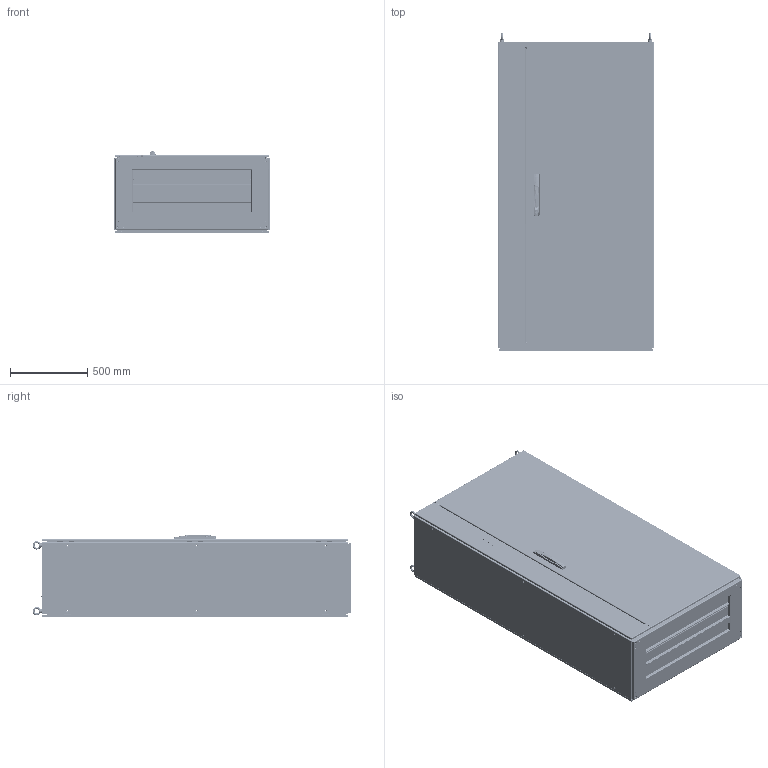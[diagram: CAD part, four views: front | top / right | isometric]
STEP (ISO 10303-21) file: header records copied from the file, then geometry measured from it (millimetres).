
FILE_DESCRIPTION (( 'STEP AP203' ), '1' );
FILE_NAME ('p2kdl20105.STEP', '2016-10-31T19:17:04', ( '' ), ( '' ), 'SwSTEP 2.0', 'SolidWorks 2014', '' );
FILE_SCHEMA (( 'CONFIG_CONTROL_DESIGN' ));
Length unit declared in the file: millimetre
Products named in the file (118): 51231001; 89124407; 89137360; 89137142_89137142; 89137403_Formed; 89129203_BBD; 46139003_46139003; 87931368_SLEEVE; 89126234; 64205001; 99411283; 89126106; 60127208; 87932260; 89126102; 11258014; 89130021_Installed RH Bot side - pin in; 11458037; 89143355_87781204; 89124458_After Weld; 89127265_2000x600; 51155001_51155001; 60100041_60100041; 50612100; 87541995; 89135159; 89127947; 60127207; 87960061; 89126523; 46139001_46139001; 89124209_Installed LH Bot side - pin in; 11458036; 89137406_FIP GASKET; 87920638_87920638; 89127235; 11258741_11258741; 89127335; 89128500_89001805; 87541994_Installed Height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
Assembly tree (224 placements, depth 5):
  p2kdl20105
    89127947
      60127013  x8
      89126102  x4
      89126523  x4
      89127979  x4
      89126524  x4
      89128008  x4
      89126106  x4
    89124255_89124255  x6
      89124256_89124256
      89124408_89124408
      89133232_Cometic Threads
    89127296
      89127335
        89127382_2000x600
        60100041_60100041  x2
          87931527_87931527
          87931368_SLEEVE
      89127411_87934847
    89126810
    89120016  x4
    89122652  x4
    89137405_BBD
      89137402
        89137403_Formed
        60100041_60100041  x2
          87931527_87931527
          87931368_SLEEVE
        89124458_After Weld  x3
        87920638_87920638  x16
        87931362_87931362  x8
      89137360
        89091664_875472289  x4
        89135168_89133277  x2
        89124180_89124180  x2
      89134078_60127430
        11458037
        11458036
        51140001
        11358764
        11258013
        11258012
        11358763
        51231001
        11258014
        46139001_46139001  x2
        51145001_Extended
        11358765
        46120001_Compressed
        51223001
        51138001_Compressed
        60127093
        60127208
        60127207
      87417965_Latch Open
        87540678
        64210001
        11258598_11258598
        11258701_11258701
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Bounding box: 1007.8 x 2061.13 x 533.07 mm (x, y, z)
Volume: 25118081.6 mm3; surface area: 25177687.3 mm2
Topology: 241 solids, 251 shells, 25431 faces, 68613 edges, 43880 vertices
Faces by surface type: plane 13576, cylinder 8641, torus 1235, bspline 1121, cone 753, sphere 105
Entity records: 361765 total; most frequent: CARTESIAN_POINT 99731, ORIENTED_EDGE 52100, DIRECTION 49455, EDGE_CURVE 26054, AXIS2_PLACEMENT_3D 16781, VERTEX_POINT 16628, VECTOR 15893, LINE 15893
